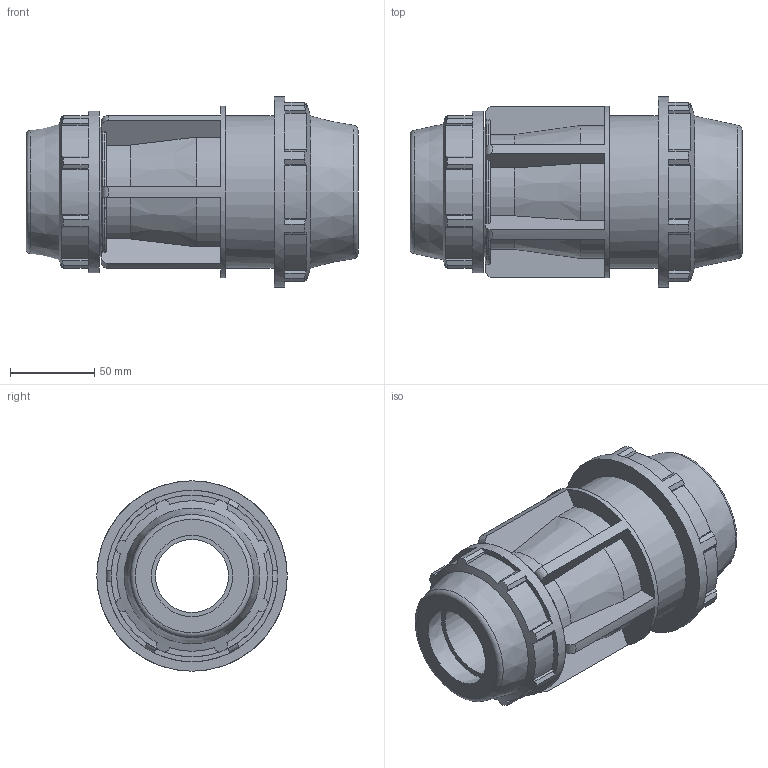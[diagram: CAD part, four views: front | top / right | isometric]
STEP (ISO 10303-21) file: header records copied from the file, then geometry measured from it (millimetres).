
FILE_DESCRIPTION(/* description */ ('PLASSON REDUCING COUPLER 2'''' - 1 1/2'''''),/* implementation_level */ '2;1');
FILE_NAME(/* name */ 'C:\Dropbox\KIMPROJECTS-Inventor 2019\99-16-3568-Processing Inch\ASTM Compression 2021\0711M0\0711M0020015.ipt.stp',/* time_stamp */ '2021-08-26T12:33:03+03:00',/* author */ ('KIM'),/* organization */ (''),/* preprocessor_version */ 'ST-DEVELOPER v17.2',/* originating_system */ 'Autodesk Inventor 2019',/* authorisation */ '');
FILE_SCHEMA (('AUTOMOTIVE_DESIGN { 1 0 10303 214 3 1 1 }'));
Length unit declared in the file: inch
Products named in the file (1): 0711M0020015
Bounding box: 197 x 113.03 x 113.03 mm (x, y, z)
Volume: 692024.5 mm3; surface area: 123528.3 mm2
Topology: 1 solids, 1 shells, 189 faces, 562 edges, 383 vertices
Faces by surface type: plane 114, cylinder 47, cone 14, torus 14
Full cylindrical faces by diameter (mm): 48.1 x1, 60.1 x1, 76.81 x1, 90.424 x1, 96.012 x1, 101.727 x1, 113.03 x1
Entity records: 6809 total; most frequent: CARTESIAN_POINT 1475, ORIENTED_EDGE 1124, DIRECTION 1047, EDGE_CURVE 562, VERTEX_POINT 383, AXIS2_PLACEMENT_3D 375, LINE 297, VECTOR 297
